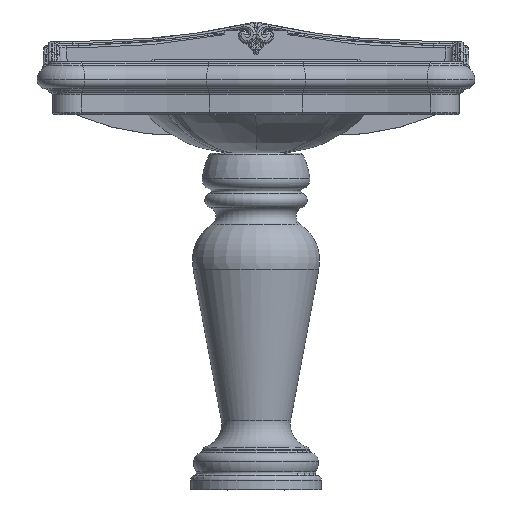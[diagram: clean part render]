
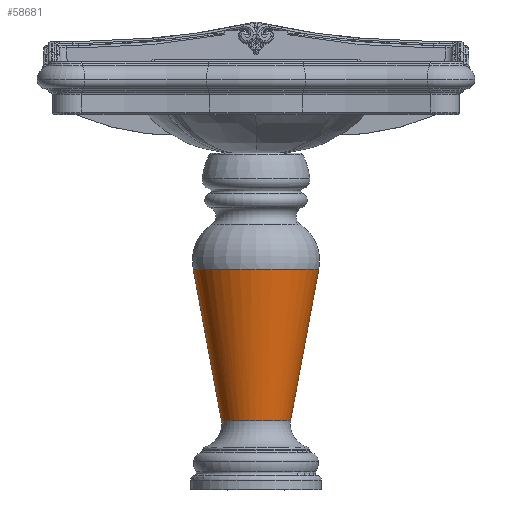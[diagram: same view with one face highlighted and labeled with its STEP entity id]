
A CAD part, top view. The second image highlights one B-rep face of the part: STEP entity #58681.
In plain terms, the highlighted toroidal (fillet/blend) face has major radius 3829.58 mm and minor radius 3796.19 mm.
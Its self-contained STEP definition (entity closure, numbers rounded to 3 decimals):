
#359 = CARTESIAN_POINT ( 'NONE',  ( -60.415, 458.113, -115.936 ) ) ;
#383 = FACE_OUTER_BOUND ( 'NONE', #42527, .T. ) ;
#2903 = CARTESIAN_POINT ( 'NONE',  ( 58.657, 275.129, -72.411 ) ) ;
#7873 = CARTESIAN_POINT ( 'NONE',  ( 0., -396.053, 0. ) ) ;
#7941 = CARTESIAN_POINT ( 'NONE',  ( -60.127, 432.071, -109.305 ) ) ;
#8244 = VERTEX_POINT ( 'NONE', #19711 ) ;
#8420 = CARTESIAN_POINT ( 'NONE',  ( -59.343, 353.715, -90.373 ) ) ;
#8470 = CARTESIAN_POINT ( 'NONE',  ( 59.103, 327.541, -84.295 ) ) ;
#12226 = CARTESIAN_POINT ( 'NONE',  ( -57.669, 144., -43.108 ) ) ;
#13400 = DIRECTION ( 'NONE',  ( 0., -1., 0. ) ) ;
#13760 = CARTESIAN_POINT ( 'NONE',  ( 57.669, 144., -43.108 ) ) ;
#13956 = CARTESIAN_POINT ( 'NONE',  ( -58.766, 288.237, -75.359 ) ) ;
#13997 = CARTESIAN_POINT ( 'NONE',  ( 59.855, 405.98, -102.879 ) ) ;
#14809 = CARTESIAN_POINT ( 'NONE',  ( 0., 458.113, 0. ) ) ;
#19524 = CARTESIAN_POINT ( 'NONE',  ( -58.446, 248.903, -66.552 ) ) ;
#19570 = CARTESIAN_POINT ( 'NONE',  ( 60.415, 458.113, -115.936 ) ) ;
#19710 = CIRCLE ( 'NONE', #43856, 130.734 ) ;
#19711 = CARTESIAN_POINT ( 'NONE',  ( 57.669, 144., -43.108 ) ) ;
#20372 = DIRECTION ( 'NONE',  ( 0., 0., -1. ) ) ;
#21236 = DIRECTION ( 'NONE',  ( 0., -1., 0. ) ) ;
#21313 = AXIS2_PLACEMENT_3D ( 'NONE', #7873, #13400, #51941 ) ;
#21987 = CARTESIAN_POINT ( 'NONE',  ( 60.415, 458.113, -115.936 ) ) ;
#22549 = ORIENTED_EDGE ( 'NONE', *, *, #38957, .T. ) ;
#22914 = VERTEX_POINT ( 'NONE', #12226 ) ;
#24749 = CIRCLE ( 'NONE', #54311, 72. ) ;
#24879 = CARTESIAN_POINT ( 'NONE',  ( 57.857, 170.203, -49.072 ) ) ;
#25059 = CARTESIAN_POINT ( 'NONE',  ( -58.145, 209.549, -57.828 ) ) ;
#30430 = CARTESIAN_POINT ( 'NONE',  ( 58.145, 209.549, -57.828 ) ) ;
#30628 = CARTESIAN_POINT ( 'NONE',  ( -57.857, 170.202, -49.072 ) ) ;
#32300 = VERTEX_POINT ( 'NONE', #359 ) ;
#35095 = EDGE_CURVE ( 'NONE', #8244, #51301, #44588, .T. ) ;
#35950 = CARTESIAN_POINT ( 'NONE',  ( 58.446, 248.903, -66.552 ) ) ;
#36152 = CARTESIAN_POINT ( 'NONE',  ( -57.669, 144., -43.108 ) ) ;
#38957 = EDGE_CURVE ( 'NONE', #51301, #32300, #19710, .T. ) ;
#41453 = CARTESIAN_POINT ( 'NONE',  ( -59.855, 405.979, -102.879 ) ) ;
#41498 = CARTESIAN_POINT ( 'NONE',  ( 58.766, 288.237, -75.359 ) ) ;
#42527 = EDGE_LOOP ( 'NONE', ( #22549, #66522, #65696, #57000 ) ) ;
#43856 = AXIS2_PLACEMENT_3D ( 'NONE', #14809, #53339, #20372 ) ;
#44414 = TOROIDAL_SURFACE ( 'NONE', #21313, 3829.578, 3796.189 ) ;
#44588 = B_SPLINE_CURVE_WITH_KNOTS ( 'NONE', 3,
 ( #13760, #57809, #24879, #63310, #30430, #68823, #35950, #2903, #41498, #8470, #47038, #13997, #52534, #19570 ),
 .UNSPECIFIED., .F., .F.,
 ( 4, 2, 2, 2, 2, 2, 4 ),
 ( 0., 0.04, 0.081, 0.121, 0.161, 0.242, 0.322 ),
 .UNSPECIFIED. ) ;
#46992 = CARTESIAN_POINT ( 'NONE',  ( -59.103, 327.541, -84.295 ) ) ;
#47038 = CARTESIAN_POINT ( 'NONE',  ( 59.343, 353.715, -90.373 ) ) ;
#49377 = EDGE_CURVE ( 'NONE', #32300, #22914, #57840, .T. ) ;
#50448 = EDGE_CURVE ( 'NONE', #8244, #22914, #24749, .T. ) ;
#51301 = VERTEX_POINT ( 'NONE', #21987 ) ;
#51941 = DIRECTION ( 'NONE',  ( 0., 0., -1. ) ) ;
#52490 = CARTESIAN_POINT ( 'NONE',  ( -58.657, 275.129, -72.411 ) ) ;
#52534 = CARTESIAN_POINT ( 'NONE',  ( 60.127, 432.071, -109.305 ) ) ;
#53339 = DIRECTION ( 'NONE',  ( 0., -1., 0. ) ) ;
#54211 = CARTESIAN_POINT ( 'NONE',  ( 0., 144., 0. ) ) ;
#54311 = AXIS2_PLACEMENT_3D ( 'NONE', #54211, #21236, #59710 ) ;
#57000 = ORIENTED_EDGE ( 'NONE', *, *, #35095, .T. ) ;
#57809 = CARTESIAN_POINT ( 'NONE',  ( 57.764, 157.094, -46.124 ) ) ;
#57840 = B_SPLINE_CURVE_WITH_KNOTS ( 'NONE', 3,
 ( #68775, #7941, #41453, #8420, #46992, #13956, #52490, #19524, #57998, #25059, #63507, #30628, #69019, #36152 ),
 .UNSPECIFIED., .F., .F.,
 ( 4, 2, 2, 2, 2, 2, 4 ),
 ( 0., 0.081, 0.161, 0.202, 0.242, 0.282, 0.322 ),
 .UNSPECIFIED. ) ;
#57998 = CARTESIAN_POINT ( 'NONE',  ( -58.344, 235.785, -63.642 ) ) ;
#58681 = ADVANCED_FACE ( 'NONE', ( #383 ), #44414, .F. ) ;
#59710 = DIRECTION ( 'NONE',  ( 0., 0., -1. ) ) ;
#63310 = CARTESIAN_POINT ( 'NONE',  ( 58.048, 196.43, -54.924 ) ) ;
#63507 = CARTESIAN_POINT ( 'NONE',  ( -58.048, 196.43, -54.924 ) ) ;
#65696 = ORIENTED_EDGE ( 'NONE', *, *, #50448, .F. ) ;
#66522 = ORIENTED_EDGE ( 'NONE', *, *, #49377, .T. ) ;
#68775 = CARTESIAN_POINT ( 'NONE',  ( -60.415, 458.113, -115.936 ) ) ;
#68823 = CARTESIAN_POINT ( 'NONE',  ( 58.344, 235.785, -63.642 ) ) ;
#69019 = CARTESIAN_POINT ( 'NONE',  ( -57.764, 157.093, -46.124 ) ) ;
